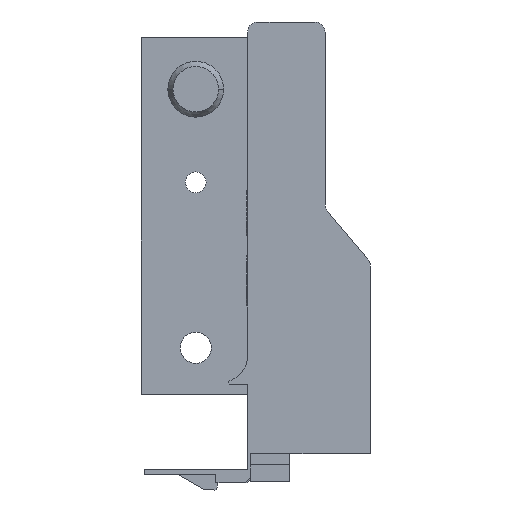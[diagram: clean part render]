
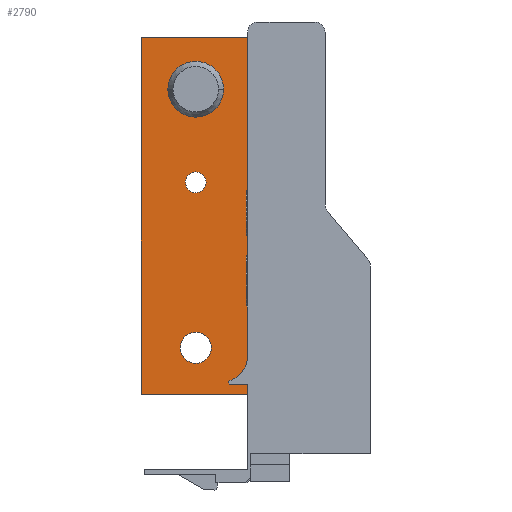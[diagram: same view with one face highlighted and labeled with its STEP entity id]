
A CAD part, front view. The second image highlights one B-rep face of the part: STEP entity #2790.
In plain terms, the highlighted planar face has unit normal (0, -1, 0).
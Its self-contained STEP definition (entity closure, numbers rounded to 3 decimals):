
#2 = EDGE_CURVE ( 'NONE', #1467, #1311, #1234, .T. ) ;
#20 = EDGE_CURVE ( 'NONE', #1461, #1432, #1149, .T. ) ;
#28 = EDGE_CURVE ( 'NONE', #1459, #1405, #1172, .T. ) ;
#38 = EDGE_CURVE ( 'NONE', #1468, #1364, #1154, .T. ) ;
#39 = EDGE_CURVE ( 'NONE', #1334, #1360, #976, .T. ) ;
#196 = EDGE_CURVE ( 'NONE', #1364, #1360, #2637, .T. ) ;
#197 = EDGE_CURVE ( 'NONE', #1311, #1467, #2635, .T. ) ;
#198 = EDGE_CURVE ( 'NONE', #1432, #1461, #2634, .T. ) ;
#199 = EDGE_CURVE ( 'NONE', #1405, #1459, #2632, .T. ) ;
#200 = EDGE_CURVE ( 'NONE', #1285, #1334, #2633, .T. ) ;
#201 = EDGE_CURVE ( 'NONE', #1379, #1285, #2630, .T. ) ;
#202 = EDGE_CURVE ( 'NONE', #1379, #1468, #2628, .T. ) ;
#241 = AXIS2_PLACEMENT_3D ( 'NONE', #1293, #1282, #1281 ) ;
#248 = AXIS2_PLACEMENT_3D ( 'NONE', #1264, #1313, #1323 ) ;
#253 = AXIS2_PLACEMENT_3D ( 'NONE', #1483, #1484, #1485 ) ;
#286 = AXIS2_PLACEMENT_3D ( 'NONE', #1819, #1820, #1821 ) ;
#287 = AXIS2_PLACEMENT_3D ( 'NONE', #1822, #1823, #1824 ) ;
#288 = AXIS2_PLACEMENT_3D ( 'NONE', #1825, #1826, #1827 ) ;
#340 = AXIS2_PLACEMENT_3D ( 'NONE', #2225, #2226, #2227 ) ;
#629 = EDGE_LOOP ( 'NONE', ( #1099, #1163, #1177, #911, #985, #936 ) ) ;
#631 = EDGE_LOOP ( 'NONE', ( #1193, #1223 ) ) ;
#714 = EDGE_LOOP ( 'NONE', ( #961, #1189 ) ) ;
#718 = EDGE_LOOP ( 'NONE', ( #1139, #960 ) ) ;
#911 = ORIENTED_EDGE ( 'NONE', *, *, #38, .T. ) ;
#936 = ORIENTED_EDGE ( 'NONE', *, *, #39, .F. ) ;
#949 = VECTOR ( 'NONE', #1508, 1000. ) ;
#960 = ORIENTED_EDGE ( 'NONE', *, *, #2, .F. ) ;
#961 = ORIENTED_EDGE ( 'NONE', *, *, #198, .T. ) ;
#976 = LINE ( 'NONE', #1509, #1160 ) ;
#985 = ORIENTED_EDGE ( 'NONE', *, *, #196, .T. ) ;
#1099 = ORIENTED_EDGE ( 'NONE', *, *, #200, .F. ) ;
#1139 = ORIENTED_EDGE ( 'NONE', *, *, #197, .F. ) ;
#1149 = CIRCLE ( 'NONE', #248, 3. ) ;
#1154 = LINE ( 'NONE', #1507, #949 ) ;
#1160 = VECTOR ( 'NONE', #1510, 1000. ) ;
#1163 = ORIENTED_EDGE ( 'NONE', *, *, #201, .F. ) ;
#1172 = CIRCLE ( 'NONE', #253, 2. ) ;
#1177 = ORIENTED_EDGE ( 'NONE', *, *, #202, .T. ) ;
#1189 = ORIENTED_EDGE ( 'NONE', *, *, #20, .T. ) ;
#1193 = ORIENTED_EDGE ( 'NONE', *, *, #199, .T. ) ;
#1223 = ORIENTED_EDGE ( 'NONE', *, *, #28, .T. ) ;
#1234 = CIRCLE ( 'NONE', #241, 5.4 ) ;
#1264 = CARTESIAN_POINT ( 'NONE',  ( -31.5, 547.2, 7. ) ) ;
#1281 = DIRECTION ( 'NONE',  ( 1., 0., 0. ) ) ;
#1282 = DIRECTION ( 'NONE',  ( 0., -1., 0. ) ) ;
#1285 = VERTEX_POINT ( 'NONE', #1945 ) ;
#1293 = CARTESIAN_POINT ( 'NONE',  ( -31.5, 547.2, 57. ) ) ;
#1311 = VERTEX_POINT ( 'NONE', #1963 ) ;
#1313 = DIRECTION ( 'NONE',  ( 0., 1., 0. ) ) ;
#1323 = DIRECTION ( 'NONE',  ( 1., 0., 0. ) ) ;
#1334 = VERTEX_POINT ( 'NONE', #1972 ) ;
#1360 = VERTEX_POINT ( 'NONE', #1984 ) ;
#1364 = VERTEX_POINT ( 'NONE', #1985 ) ;
#1379 = VERTEX_POINT ( 'NONE', #1997 ) ;
#1405 = VERTEX_POINT ( 'NONE', #2023 ) ;
#1432 = VERTEX_POINT ( 'NONE', #2050 ) ;
#1459 = VERTEX_POINT ( 'NONE', #2077 ) ;
#1461 = VERTEX_POINT ( 'NONE', #2079 ) ;
#1467 = VERTEX_POINT ( 'NONE', #2085 ) ;
#1468 = VERTEX_POINT ( 'NONE', #2086 ) ;
#1483 = CARTESIAN_POINT ( 'NONE',  ( -31.5, 547.2, 39. ) ) ;
#1484 = DIRECTION ( 'NONE',  ( 0., 1., 0. ) ) ;
#1485 = DIRECTION ( 'NONE',  ( 1., 0., 0. ) ) ;
#1507 = CARTESIAN_POINT ( 'NONE',  ( -21.1, 547.2, 27. ) ) ;
#1508 = DIRECTION ( 'NONE',  ( 1., 0., 0. ) ) ;
#1509 = CARTESIAN_POINT ( 'NONE',  ( -21.1, 547.2, 67. ) ) ;
#1510 = DIRECTION ( 'NONE',  ( 1., 0., 0. ) ) ;
#1817 = CARTESIAN_POINT ( 'NONE',  ( -21.1, 547.2, 27. ) ) ;
#1818 = DIRECTION ( 'NONE',  ( 0., 0., 1. ) ) ;
#1819 = CARTESIAN_POINT ( 'NONE',  ( -31.5, 547.2, 57. ) ) ;
#1820 = DIRECTION ( 'NONE',  ( 0., -1., 0. ) ) ;
#1821 = DIRECTION ( 'NONE',  ( 1., 0., 0. ) ) ;
#1822 = CARTESIAN_POINT ( 'NONE',  ( -31.5, 547.2, 7. ) ) ;
#1823 = DIRECTION ( 'NONE',  ( 0., 1., 0. ) ) ;
#1824 = DIRECTION ( 'NONE',  ( 1., 0., 0. ) ) ;
#1825 = CARTESIAN_POINT ( 'NONE',  ( -31.5, 547.2, 39. ) ) ;
#1826 = DIRECTION ( 'NONE',  ( 0., 1., 0. ) ) ;
#1827 = DIRECTION ( 'NONE',  ( 1., 0., 0. ) ) ;
#1828 = CARTESIAN_POINT ( 'NONE',  ( -42., 547.2, 27. ) ) ;
#1829 = DIRECTION ( 'NONE',  ( 0., 0., 1. ) ) ;
#1830 = CARTESIAN_POINT ( 'NONE',  ( -21.5, 547.2, -2. ) ) ;
#1831 = DIRECTION ( 'NONE',  ( -1., 0., 0. ) ) ;
#1832 = CARTESIAN_POINT ( 'NONE',  ( -21.5, 547.2, -2. ) ) ;
#1833 = DIRECTION ( 'NONE',  ( 0., 0., 1. ) ) ;
#1945 = CARTESIAN_POINT ( 'NONE',  ( -42., 547.2, -2. ) ) ;
#1963 = CARTESIAN_POINT ( 'NONE',  ( -36.9, 547.2, 57. ) ) ;
#1972 = CARTESIAN_POINT ( 'NONE',  ( -42., 547.2, 67. ) ) ;
#1984 = CARTESIAN_POINT ( 'NONE',  ( -21.1, 547.2, 67. ) ) ;
#1985 = CARTESIAN_POINT ( 'NONE',  ( -21.1, 547.2, 27. ) ) ;
#1997 = CARTESIAN_POINT ( 'NONE',  ( -21.5, 547.2, -2. ) ) ;
#2023 = CARTESIAN_POINT ( 'NONE',  ( -33.5, 547.2, 39. ) ) ;
#2050 = CARTESIAN_POINT ( 'NONE',  ( -34.5, 547.2, 7. ) ) ;
#2077 = CARTESIAN_POINT ( 'NONE',  ( -29.5, 547.2, 39. ) ) ;
#2079 = CARTESIAN_POINT ( 'NONE',  ( -28.5, 547.2, 7. ) ) ;
#2085 = CARTESIAN_POINT ( 'NONE',  ( -26.1, 547.2, 57. ) ) ;
#2086 = CARTESIAN_POINT ( 'NONE',  ( -21.5, 547.2, 27. ) ) ;
#2224 = PLANE ( 'NONE',  #340 ) ;
#2225 = CARTESIAN_POINT ( 'NONE',  ( -21.1, 547.2, 27. ) ) ;
#2226 = DIRECTION ( 'NONE',  ( 0., -1., 0. ) ) ;
#2227 = DIRECTION ( 'NONE',  ( 1., 0., 0. ) ) ;
#2503 = FACE_OUTER_BOUND ( 'NONE', #629, .T. ) ;
#2504 = FACE_BOUND ( 'NONE', #631, .T. ) ;
#2505 = FACE_BOUND ( 'NONE', #714, .T. ) ;
#2506 = FACE_BOUND ( 'NONE', #718, .T. ) ;
#2627 = VECTOR ( 'NONE', #1833, 1000. ) ;
#2628 = LINE ( 'NONE', #1832, #2627 ) ;
#2629 = VECTOR ( 'NONE', #1831, 1000. ) ;
#2630 = LINE ( 'NONE', #1830, #2629 ) ;
#2631 = VECTOR ( 'NONE', #1829, 1000. ) ;
#2632 = CIRCLE ( 'NONE', #288, 2. ) ;
#2633 = LINE ( 'NONE', #1828, #2631 ) ;
#2634 = CIRCLE ( 'NONE', #287, 3. ) ;
#2635 = CIRCLE ( 'NONE', #286, 5.4 ) ;
#2636 = VECTOR ( 'NONE', #1818, 1000. ) ;
#2637 = LINE ( 'NONE', #1817, #2636 ) ;
#2790 = ADVANCED_FACE ( 'NONE', ( #2506, #2505, #2504, #2503 ), #2224, .T. ) ;
